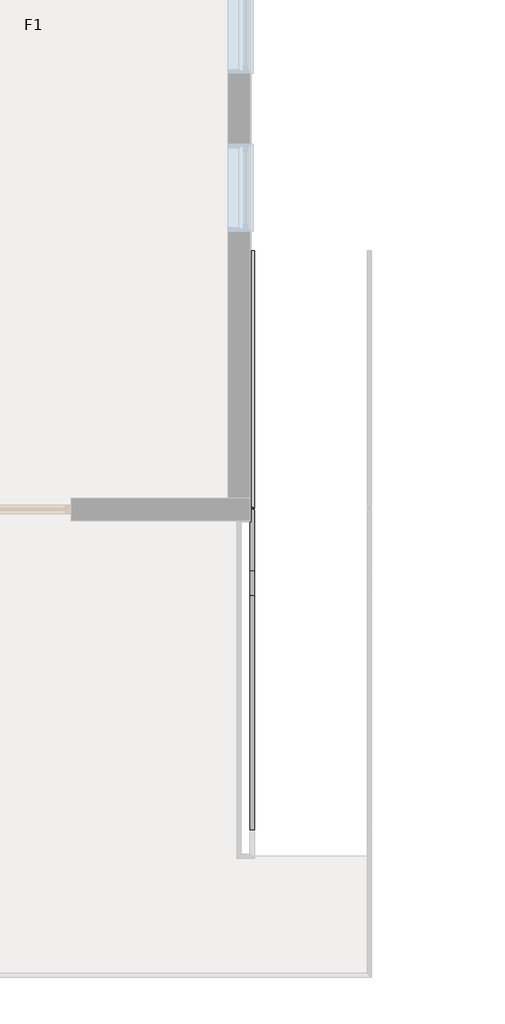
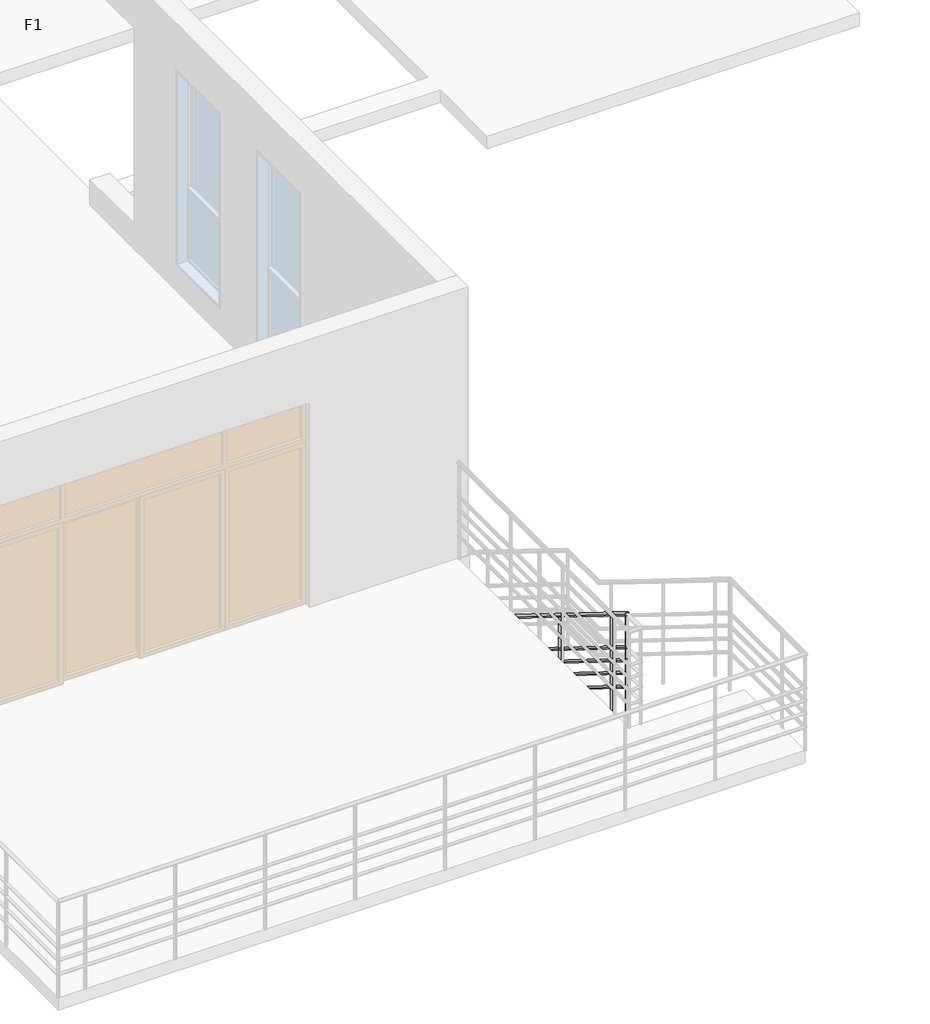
# One storey, part 3 of 4: 1 railing.
"""IFC4 building model written with IfcOpenShell, lengths in millimetres."""

from ifc_helpers import new_model, si_unit, frame, origin, place, context, project, spatial, circle_curve, ellipse_curve, element, save
from ifc_brep_helpers import plane_surface, cylinder_surface, advanced_brep

model = new_model("IFC4")

# Units and contexts
model_context = context("Model", 3, world=origin())
ifc_project = project(units=[si_unit("LENGTHUNIT", "METRE", prefix="MILLI")], contexts=[model_context])

# Site, building, storey
site = spatial("IfcSite", under=ifc_project)
building = spatial("IfcBuilding", under=site)
storey = spatial("IfcBuildingStorey", under=building, Name="F1", Elevation=0.0)

# Railing
placement = place(None, origin())
element("IfcRailing", 1, ObjectType="900mm 圆管", at=placement, inside=storey, context=model_context, shape_type="AdvancedBrep", body=[
    advanced_brep(
    [(-9845.9782681, -12891.0286905, -1999.8510653), (-9805.9782681, -12891.0286905, -1999.8510653), (-9845.9782681, -15416.7279836, -433.1578947), (-9805.9782681, -15416.7279836, -433.1578947)],
    [
        (0, 1, ellipse_curve(frame((-9825.9782681, -12891.0286905, -1999.8510653), z_axis=(0.0, 1.0, 0.0), x_axis=(0.0, 0.0, -1.0)), 23.5352758, 20.0)),
        (1, 0, ellipse_curve(frame((-9825.9782681, -12891.0286905, -1999.8510653), z_axis=(0.0, 1.0, 0.0), x_axis=(0.0, 0.0, -1.0)), 23.5352758, 20.0)),
        (2, 3, ellipse_curve(frame((-9825.9782681, -15416.7279836, -433.1578947), z_axis=(0.0, -0.9617141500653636, 0.27405454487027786), x_axis=(0.0, -0.27405454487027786, -0.9617141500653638)), 20.7962002, 20.0)),
        (3, 2, ellipse_curve(frame((-9825.9782681, -15416.7279836, -433.1578947), z_axis=(0.0, -0.9617141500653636, 0.27405454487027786), x_axis=(0.0, -0.27405454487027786, -0.9617141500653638)), 20.7962002, 20.0)),
        (0, 2),
        (3, 1),
    ],
    [
        plane_surface(frame((-9825.9782681, -12891.0286905, -1976.3157895), z_axis=(0.0, 1.0, 0.0), x_axis=(0.0, 0.0, -1.0))),
        plane_surface(frame((-9825.9782681, -15411.0286905, -413.1578947), z_axis=(0.0, -0.9617141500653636, 0.27405454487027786), x_axis=(1.0, 0.0, 0.0))),
        cylinder_surface(frame((-9825.9782681, -12901.5711758, -1993.3115537), z_axis=(0.0, 0.8497882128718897, -0.5271242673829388), x_axis=(1.0, 0.0, 0.0)), 20.0),
    ],
    [
        (0, [[1, 2]]),
        (1, [[3, 4]]),
        (2, [[-1, 5, -4, 6]]),
        (2, [[-2, -6, -3, -5]]),
    ],
),
    advanced_brep(
    [(-9845.9782681, -15436.7279836, -433.1578947), (-9805.9782681, -15436.7279836, -433.1578947), (-9845.9782681, -16036.7279836, -433.1578947), (-9805.9782681, -16036.7279836, -433.1578947), (-9845.9782681, -16281.5711758, -281.2814785), (-9805.9782681, -16281.5711758, -281.2814785), (-9845.9782681, -18571.0286905, 1138.8707392), (-9805.9782681, -18571.0286905, 1138.8707392)],
    [
        (0, 1, ellipse_curve(frame((-9825.9782681, -15436.7279836, -433.1578947), z_axis=(0.0, 0.9617141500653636, -0.27405454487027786), x_axis=(0.0, 0.27405454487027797, 0.9617141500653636)), 20.7962002, 20.0)),
        (1, 0, ellipse_curve(frame((-9825.9782681, -15436.7279836, -433.1578947), z_axis=(0.0, 0.9617141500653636, -0.27405454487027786), x_axis=(0.0, 0.27405454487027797, 0.9617141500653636)), 20.7962002, 20.0)),
        (0, 2),
        (2, 3, ellipse_curve(frame((-9825.9782681, -16036.7279836, -433.1578947), z_axis=(0.0, 0.9617141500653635, -0.27405454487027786), x_axis=(0.0, 0.27405454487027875, 0.9617141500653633)), 20.7962002, 20.0)),
        (3, 1),
        (3, 2, ellipse_curve(frame((-9825.9782681, -16036.7279836, -433.1578947), z_axis=(0.0, 0.9617141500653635, -0.27405454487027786), x_axis=(0.0, 0.27405454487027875, 0.9617141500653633)), 20.7962002, 20.0)),
        (2, 4),
        (4, 5, circle_curve(frame((-9825.9782681, -16281.5711758, -281.2814785), z_axis=(0.0, 0.8497882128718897, -0.5271242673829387), x_axis=(1.0, 0.0, 0.0)), 20.0)),
        (5, 3),
        (5, 4, circle_curve(frame((-9825.9782681, -16281.5711758, -281.2814785), z_axis=(0.0, 0.8497882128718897, -0.5271242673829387), x_axis=(1.0, 0.0, 0.0)), 20.0)),
        (6, 7, ellipse_curve(frame((-9825.9782681, -18571.0286905, 1138.8707392), z_axis=(0.0, -1.0, 0.0), x_axis=(0.0, 0.0, -1.0)), 23.5352758, 20.0)),
        (7, 6, ellipse_curve(frame((-9825.9782681, -18571.0286905, 1138.8707392), z_axis=(0.0, -1.0, 0.0), x_axis=(0.0, 0.0, -1.0)), 23.5352758, 20.0)),
        (4, 6),
        (7, 5),
    ],
    [
        plane_surface(frame((-9825.9782681, -15431.0286905, -413.1578947), z_axis=(0.0, 0.9617141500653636, -0.27405454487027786), x_axis=(1.0, 0.0, 0.0))),
        cylinder_surface(frame((-9825.9782681, -15431.0286905, -433.1578947), z_axis=(0.0, 1.0, 0.0), x_axis=(1.0, 0.0, 0.0)), 20.0),
        cylinder_surface(frame((-9825.9782681, -16041.5711758, -430.153659), z_axis=(0.0, 0.8497882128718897, -0.5271242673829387), x_axis=(1.0, 0.0, 0.0)), 20.0),
        plane_surface(frame((-9825.9782681, -18571.0286905, 1162.406015), z_axis=(0.0, -1.0, 0.0), x_axis=(0.0, 0.0, -1.0))),
        cylinder_surface(frame((-9825.9782681, -16281.5711758, -281.2814785), z_axis=(0.0, 0.8497882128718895, -0.5271242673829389), x_axis=(1.0, 0.0, 0.0)), 20.0),
    ],
    [
        (0, [[1, 2]]),
        (1, [[-1, 3, 4, 5]]),
        (1, [[-2, -5, 6, -3]]),
        (2, [[-4, 7, 8, 9]]),
        (2, [[-6, -9, 10, -7]]),
        (3, [[11, 12]]),
        (4, [[-8, 13, -12, 14]]),
        (4, [[-10, -14, -11, -13]]),
    ],
),
    advanced_brep(
    [(-9810.9782681, -12891.0286905, -2393.9672464), (-9840.9782681, -12891.0286905, -2393.9672464), (-9810.9782681, -15415.3031603, -828.1578947), (-9840.9782681, -15415.3031603, -828.1578947), (-9810.9782681, -15431.0286905, -828.1578947), (-9840.9782681, -15431.0286905, -828.1578947)],
    [
        (0, 1, ellipse_curve(frame((-9825.9782681, -12891.0286905, -2393.9672464), z_axis=(0.0, 1.0, 0.0), x_axis=(0.0, 0.0, -1.0)), 17.6514569, 15.0)),
        (1, 0, ellipse_curve(frame((-9825.9782681, -12891.0286905, -2393.9672464), z_axis=(0.0, 1.0, 0.0), x_axis=(0.0, 0.0, -1.0)), 17.6514569, 15.0)),
        (0, 2),
        (2, 3, ellipse_curve(frame((-9825.9782681, -15415.3031603, -828.1578947), z_axis=(0.0, 0.9617141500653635, -0.2740545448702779), x_axis=(0.0, -0.2740545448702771, -0.961714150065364)), 15.5971502, 15.0)),
        (3, 1),
        (3, 2, ellipse_curve(frame((-9825.9782681, -15415.3031603, -828.1578947), z_axis=(0.0, 0.9617141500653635, -0.2740545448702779), x_axis=(0.0, -0.2740545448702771, -0.961714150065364)), 15.5971502, 15.0)),
        (4, 5, circle_curve(frame((-9825.9782681, -15431.0286905, -828.1578947), z_axis=(0.0, -1.0, 0.0), x_axis=(-1.0, 0.0, 0.0)), 15.0)),
        (5, 4, circle_curve(frame((-9825.9782681, -15431.0286905, -828.1578947), z_axis=(0.0, -1.0, 0.0), x_axis=(-1.0, 0.0, 0.0)), 15.0)),
        (2, 4),
        (5, 3),
    ],
    [
        plane_surface(frame((-9825.9782681, -12891.0286905, -2376.3157895), z_axis=(0.0, 1.0, 0.0), x_axis=(0.0, 0.0, -1.0))),
        cylinder_surface(frame((-9825.9782681, -12898.9355545, -2389.0626127), z_axis=(0.0, 0.8497882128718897, -0.5271242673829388), x_axis=(-1.0, 0.0, 0.0)), 15.0),
        plane_surface(frame((-9825.9782681, -15431.0286905, -813.1578947), z_axis=(0.0, -1.0, 0.0), x_axis=(0.0, 0.0, -1.0))),
        cylinder_surface(frame((-9825.9782681, -15411.0286905, -828.1578947), z_axis=(0.0, 1.0, 0.0), x_axis=(-1.0, 0.0, 0.0)), 15.0),
    ],
    [
        (0, [[1, 2]]),
        (1, [[-1, 3, 4, 5]]),
        (1, [[-2, -5, 6, -3]]),
        (2, [[7, 8]]),
        (3, [[-4, 9, -8, 10]]),
        (3, [[-6, -10, -7, -9]]),
    ],
),
    advanced_brep(
    [(-9810.9782681, -15431.0286905, -828.1578947), (-9840.9782681, -15431.0286905, -828.1578947), (-9810.9782681, -16035.3031603, -828.1578947), (-9840.9782681, -16035.3031603, -828.1578947), (-9810.9782681, -16271.0286905, -681.9371712), (-9840.9782681, -16271.0286905, -681.9371712)],
    [
        (0, 1, circle_curve(frame((-9825.9782681, -15431.0286905, -828.1578947), z_axis=(0.0, 1.0, 0.0), x_axis=(-1.0, 0.0, 0.0)), 15.0)),
        (1, 0, circle_curve(frame((-9825.9782681, -15431.0286905, -828.1578947), z_axis=(0.0, 1.0, 0.0), x_axis=(-1.0, 0.0, 0.0)), 15.0)),
        (0, 2),
        (2, 3, ellipse_curve(frame((-9825.9782681, -16035.3031603, -828.1578947), z_axis=(0.0, 0.9617141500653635, -0.27405454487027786), x_axis=(0.0, 0.27405454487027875, 0.9617141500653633)), 15.5971502, 15.0)),
        (3, 1),
        (3, 2, ellipse_curve(frame((-9825.9782681, -16035.3031603, -828.1578947), z_axis=(0.0, 0.9617141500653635, -0.27405454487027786), x_axis=(0.0, 0.27405454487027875, 0.9617141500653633)), 15.5971502, 15.0)),
        (4, 5, ellipse_curve(frame((-9825.9782681, -16271.0286905, -681.9371712), z_axis=(0.0, -1.0, 0.0), x_axis=(0.0, 0.0, -1.0)), 17.6514569, 15.0)),
        (5, 4, ellipse_curve(frame((-9825.9782681, -16271.0286905, -681.9371712), z_axis=(0.0, -1.0, 0.0), x_axis=(0.0, 0.0, -1.0)), 17.6514569, 15.0)),
        (2, 4),
        (5, 3),
    ],
    [
        plane_surface(frame((-9825.9782681, -15431.0286905, -813.1578947), z_axis=(0.0, 1.0, 0.0), x_axis=(0.0, 0.0, -1.0))),
        cylinder_surface(frame((-9825.9782681, -15431.0286905, -828.1578947), z_axis=(0.0, 1.0, 0.0), x_axis=(-1.0, 0.0, 0.0)), 15.0),
        plane_surface(frame((-9825.9782681, -16271.0286905, -664.2857143), z_axis=(0.0, -1.0, 0.0), x_axis=(0.0, 0.0, -1.0))),
        cylinder_surface(frame((-9825.9782681, -16038.9355545, -825.9047179), z_axis=(0.0, 0.8497882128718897, -0.5271242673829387), x_axis=(-1.0, 0.0, 0.0)), 15.0),
    ],
    [
        (0, [[1, 2]]),
        (1, [[-1, 3, 4, 5]]),
        (1, [[-2, -5, 6, -3]]),
        (2, [[7, 8]]),
        (3, [[-4, 9, -8, 10]]),
        (3, [[-6, -10, -7, -9]]),
    ],
),
    advanced_brep(
    [(-9810.9782681, -16271.0286905, -681.9371712), (-9840.9782681, -16271.0286905, -681.9371712), (-9810.9782681, -18571.0286905, 744.7545582), (-9840.9782681, -18571.0286905, 744.7545582)],
    [
        (0, 1, ellipse_curve(frame((-9825.9782681, -16271.0286905, -681.9371712), z_axis=(0.0, 1.0, 0.0), x_axis=(0.0, 0.0, -1.0)), 17.6514569, 15.0)),
        (1, 0, ellipse_curve(frame((-9825.9782681, -16271.0286905, -681.9371712), z_axis=(0.0, 1.0, 0.0), x_axis=(0.0, 0.0, -1.0)), 17.6514569, 15.0)),
        (2, 3, ellipse_curve(frame((-9825.9782681, -18571.0286905, 744.7545582), z_axis=(0.0, -1.0, 0.0), x_axis=(0.0, 0.0, -1.0)), 17.6514569, 15.0)),
        (3, 2, ellipse_curve(frame((-9825.9782681, -18571.0286905, 744.7545582), z_axis=(0.0, -1.0, 0.0), x_axis=(0.0, 0.0, -1.0)), 17.6514569, 15.0)),
        (0, 2),
        (3, 1),
    ],
    [
        plane_surface(frame((-9825.9782681, -16271.0286905, -664.2857143), z_axis=(0.0, 1.0, 0.0), x_axis=(0.0, 0.0, -1.0))),
        plane_surface(frame((-9825.9782681, -18571.0286905, 762.406015), z_axis=(0.0, -1.0, 0.0), x_axis=(0.0, 0.0, -1.0))),
        cylinder_surface(frame((-9825.9782681, -16278.9355545, -677.0325375), z_axis=(0.0, 0.8497882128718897, -0.5271242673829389), x_axis=(-1.0, 0.0, 0.0)), 15.0),
    ],
    [
        (0, [[1, 2]]),
        (1, [[3, 4]]),
        (2, [[-1, 5, -4, 6]]),
        (2, [[-2, -6, -3, -5]]),
    ],
),
    advanced_brep(
    [(-9810.9782681, -12891.0286905, -2543.9672464), (-9840.9782681, -12891.0286905, -2543.9672464), (-9810.9782681, -15415.3031603, -978.1578947), (-9840.9782681, -15415.3031603, -978.1578947), (-9810.9782681, -15431.0286905, -978.1578947), (-9840.9782681, -15431.0286905, -978.1578947)],
    [
        (0, 1, ellipse_curve(frame((-9825.9782681, -12891.0286905, -2543.9672464), z_axis=(0.0, 1.0, 0.0), x_axis=(0.0, 0.0, -1.0)), 17.6514569, 15.0)),
        (1, 0, ellipse_curve(frame((-9825.9782681, -12891.0286905, -2543.9672464), z_axis=(0.0, 1.0, 0.0), x_axis=(0.0, 0.0, -1.0)), 17.6514569, 15.0)),
        (0, 2),
        (2, 3, ellipse_curve(frame((-9825.9782681, -15415.3031603, -978.1578947), z_axis=(0.0, 0.9617141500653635, -0.2740545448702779), x_axis=(0.0, -0.2740545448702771, -0.961714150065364)), 15.5971502, 15.0)),
        (3, 1),
        (3, 2, ellipse_curve(frame((-9825.9782681, -15415.3031603, -978.1578947), z_axis=(0.0, 0.9617141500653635, -0.2740545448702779), x_axis=(0.0, -0.2740545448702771, -0.961714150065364)), 15.5971502, 15.0)),
        (4, 5, circle_curve(frame((-9825.9782681, -15431.0286905, -978.1578947), z_axis=(0.0, -1.0, 0.0), x_axis=(-1.0, 0.0, 0.0)), 15.0)),
        (5, 4, circle_curve(frame((-9825.9782681, -15431.0286905, -978.1578947), z_axis=(0.0, -1.0, 0.0), x_axis=(-1.0, 0.0, 0.0)), 15.0)),
        (2, 4),
        (5, 3),
    ],
    [
        plane_surface(frame((-9825.9782681, -12891.0286905, -2526.3157895), z_axis=(0.0, 1.0, 0.0), x_axis=(0.0, 0.0, -1.0))),
        cylinder_surface(frame((-9825.9782681, -12898.9355545, -2539.0626127), z_axis=(0.0, 0.8497882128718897, -0.5271242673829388), x_axis=(-1.0, 0.0, 0.0)), 15.0),
        plane_surface(frame((-9825.9782681, -15431.0286905, -963.1578947), z_axis=(0.0, -1.0, 0.0), x_axis=(0.0, 0.0, -1.0))),
        cylinder_surface(frame((-9825.9782681, -15411.0286905, -978.1578947), z_axis=(0.0, 1.0, 0.0), x_axis=(-1.0, 0.0, 0.0)), 15.0),
    ],
    [
        (0, [[1, 2]]),
        (1, [[-1, 3, 4, 5]]),
        (1, [[-2, -5, 6, -3]]),
        (2, [[7, 8]]),
        (3, [[-4, 9, -8, 10]]),
        (3, [[-6, -10, -7, -9]]),
    ],
),
    advanced_brep(
    [(-9810.9782681, -15431.0286905, -978.1578947), (-9840.9782681, -15431.0286905, -978.1578947), (-9810.9782681, -16035.3031603, -978.1578947), (-9840.9782681, -16035.3031603, -978.1578947), (-9810.9782681, -16271.0286905, -831.9371712), (-9840.9782681, -16271.0286905, -831.9371712)],
    [
        (0, 1, circle_curve(frame((-9825.9782681, -15431.0286905, -978.1578947), z_axis=(0.0, 1.0, 0.0), x_axis=(-1.0, 0.0, 0.0)), 15.0)),
        (1, 0, circle_curve(frame((-9825.9782681, -15431.0286905, -978.1578947), z_axis=(0.0, 1.0, 0.0), x_axis=(-1.0, 0.0, 0.0)), 15.0)),
        (0, 2),
        (2, 3, ellipse_curve(frame((-9825.9782681, -16035.3031603, -978.1578947), z_axis=(0.0, 0.9617141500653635, -0.27405454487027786), x_axis=(0.0, 0.27405454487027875, 0.9617141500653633)), 15.5971502, 15.0)),
        (3, 1),
        (3, 2, ellipse_curve(frame((-9825.9782681, -16035.3031603, -978.1578947), z_axis=(0.0, 0.9617141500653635, -0.27405454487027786), x_axis=(0.0, 0.27405454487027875, 0.9617141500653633)), 15.5971502, 15.0)),
        (4, 5, ellipse_curve(frame((-9825.9782681, -16271.0286905, -831.9371712), z_axis=(0.0, -1.0, 0.0), x_axis=(0.0, 0.0, -1.0)), 17.6514569, 15.0)),
        (5, 4, ellipse_curve(frame((-9825.9782681, -16271.0286905, -831.9371712), z_axis=(0.0, -1.0, 0.0), x_axis=(0.0, 0.0, -1.0)), 17.6514569, 15.0)),
        (2, 4),
        (5, 3),
    ],
    [
        plane_surface(frame((-9825.9782681, -15431.0286905, -963.1578947), z_axis=(0.0, 1.0, 0.0), x_axis=(0.0, 0.0, -1.0))),
        cylinder_surface(frame((-9825.9782681, -15431.0286905, -978.1578947), z_axis=(0.0, 1.0, 0.0), x_axis=(-1.0, 0.0, 0.0)), 15.0),
        plane_surface(frame((-9825.9782681, -16271.0286905, -814.2857143), z_axis=(0.0, -1.0, 0.0), x_axis=(0.0, 0.0, -1.0))),
        cylinder_surface(frame((-9825.9782681, -16038.9355545, -975.9047179), z_axis=(0.0, 0.8497882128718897, -0.5271242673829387), x_axis=(-1.0, 0.0, 0.0)), 15.0),
    ],
    [
        (0, [[1, 2]]),
        (1, [[-1, 3, 4, 5]]),
        (1, [[-2, -5, 6, -3]]),
        (2, [[7, 8]]),
        (3, [[-4, 9, -8, 10]]),
        (3, [[-6, -10, -7, -9]]),
    ],
),
    advanced_brep(
    [(-9810.9782681, -16271.0286905, -831.9371712), (-9840.9782681, -16271.0286905, -831.9371712), (-9810.9782681, -18571.0286905, 594.7545582), (-9840.9782681, -18571.0286905, 594.7545582)],
    [
        (0, 1, ellipse_curve(frame((-9825.9782681, -16271.0286905, -831.9371712), z_axis=(0.0, 1.0, 0.0), x_axis=(0.0, 0.0, -1.0)), 17.6514569, 15.0)),
        (1, 0, ellipse_curve(frame((-9825.9782681, -16271.0286905, -831.9371712), z_axis=(0.0, 1.0, 0.0), x_axis=(0.0, 0.0, -1.0)), 17.6514569, 15.0)),
        (2, 3, ellipse_curve(frame((-9825.9782681, -18571.0286905, 594.7545582), z_axis=(0.0, -1.0, 0.0), x_axis=(0.0, 0.0, -1.0)), 17.6514569, 15.0)),
        (3, 2, ellipse_curve(frame((-9825.9782681, -18571.0286905, 594.7545582), z_axis=(0.0, -1.0, 0.0), x_axis=(0.0, 0.0, -1.0)), 17.6514569, 15.0)),
        (0, 2),
        (3, 1),
    ],
    [
        plane_surface(frame((-9825.9782681, -16271.0286905, -814.2857143), z_axis=(0.0, 1.0, 0.0), x_axis=(0.0, 0.0, -1.0))),
        plane_surface(frame((-9825.9782681, -18571.0286905, 612.406015), z_axis=(0.0, -1.0, 0.0), x_axis=(0.0, 0.0, -1.0))),
        cylinder_surface(frame((-9825.9782681, -16278.9355545, -827.0325375), z_axis=(0.0, 0.8497882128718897, -0.5271242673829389), x_axis=(-1.0, 0.0, 0.0)), 15.0),
    ],
    [
        (0, [[1, 2]]),
        (1, [[3, 4]]),
        (2, [[-1, 5, -4, 6]]),
        (2, [[-2, -6, -3, -5]]),
    ],
),
    advanced_brep(
    [(-9810.9782681, -12891.0286905, -2693.9672464), (-9840.9782681, -12891.0286905, -2693.9672464), (-9810.9782681, -15415.3031603, -1128.1578947), (-9840.9782681, -15415.3031603, -1128.1578947), (-9810.9782681, -15431.0286905, -1128.1578947), (-9840.9782681, -15431.0286905, -1128.1578947)],
    [
        (0, 1, ellipse_curve(frame((-9825.9782681, -12891.0286905, -2693.9672464), z_axis=(0.0, 1.0, 0.0), x_axis=(0.0, 0.0, -1.0)), 17.6514569, 15.0)),
        (1, 0, ellipse_curve(frame((-9825.9782681, -12891.0286905, -2693.9672464), z_axis=(0.0, 1.0, 0.0), x_axis=(0.0, 0.0, -1.0)), 17.6514569, 15.0)),
        (0, 2),
        (2, 3, ellipse_curve(frame((-9825.9782681, -15415.3031603, -1128.1578947), z_axis=(0.0, 0.9617141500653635, -0.2740545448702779), x_axis=(0.0, -0.2740545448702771, -0.961714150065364)), 15.5971502, 15.0)),
        (3, 1),
        (3, 2, ellipse_curve(frame((-9825.9782681, -15415.3031603, -1128.1578947), z_axis=(0.0, 0.9617141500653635, -0.2740545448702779), x_axis=(0.0, -0.2740545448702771, -0.961714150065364)), 15.5971502, 15.0)),
        (4, 5, circle_curve(frame((-9825.9782681, -15431.0286905, -1128.1578947), z_axis=(0.0, -1.0, 0.0), x_axis=(-1.0, 0.0, 0.0)), 15.0)),
        (5, 4, circle_curve(frame((-9825.9782681, -15431.0286905, -1128.1578947), z_axis=(0.0, -1.0, 0.0), x_axis=(-1.0, 0.0, 0.0)), 15.0)),
        (2, 4),
        (5, 3),
    ],
    [
        plane_surface(frame((-9825.9782681, -12891.0286905, -2676.3157895), z_axis=(0.0, 1.0, 0.0), x_axis=(0.0, 0.0, -1.0))),
        cylinder_surface(frame((-9825.9782681, -12898.9355545, -2689.0626127), z_axis=(0.0, 0.8497882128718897, -0.5271242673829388), x_axis=(-1.0, 0.0, 0.0)), 15.0),
        plane_surface(frame((-9825.9782681, -15431.0286905, -1113.1578947), z_axis=(0.0, -1.0, 0.0), x_axis=(0.0, 0.0, -1.0))),
        cylinder_surface(frame((-9825.9782681, -15411.0286905, -1128.1578947), z_axis=(0.0, 1.0, 0.0), x_axis=(-1.0, 0.0, 0.0)), 15.0),
    ],
    [
        (0, [[1, 2]]),
        (1, [[-1, 3, 4, 5]]),
        (1, [[-2, -5, 6, -3]]),
        (2, [[7, 8]]),
        (3, [[-4, 9, -8, 10]]),
        (3, [[-6, -10, -7, -9]]),
    ],
),
    advanced_brep(
    [(-9810.9782681, -15431.0286905, -1128.1578947), (-9840.9782681, -15431.0286905, -1128.1578947), (-9810.9782681, -16035.3031603, -1128.1578947), (-9840.9782681, -16035.3031603, -1128.1578947), (-9810.9782681, -16271.0286905, -981.9371712), (-9840.9782681, -16271.0286905, -981.9371712)],
    [
        (0, 1, circle_curve(frame((-9825.9782681, -15431.0286905, -1128.1578947), z_axis=(0.0, 1.0, 0.0), x_axis=(-1.0, 0.0, 0.0)), 15.0)),
        (1, 0, circle_curve(frame((-9825.9782681, -15431.0286905, -1128.1578947), z_axis=(0.0, 1.0, 0.0), x_axis=(-1.0, 0.0, 0.0)), 15.0)),
        (0, 2),
        (2, 3, ellipse_curve(frame((-9825.9782681, -16035.3031603, -1128.1578947), z_axis=(0.0, 0.9617141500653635, -0.27405454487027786), x_axis=(0.0, 0.27405454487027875, 0.9617141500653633)), 15.5971502, 15.0)),
        (3, 1),
        (3, 2, ellipse_curve(frame((-9825.9782681, -16035.3031603, -1128.1578947), z_axis=(0.0, 0.9617141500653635, -0.27405454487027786), x_axis=(0.0, 0.27405454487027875, 0.9617141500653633)), 15.5971502, 15.0)),
        (4, 5, ellipse_curve(frame((-9825.9782681, -16271.0286905, -981.9371712), z_axis=(0.0, -1.0, 0.0), x_axis=(0.0, 0.0, -1.0)), 17.6514569, 15.0)),
        (5, 4, ellipse_curve(frame((-9825.9782681, -16271.0286905, -981.9371712), z_axis=(0.0, -1.0, 0.0), x_axis=(0.0, 0.0, -1.0)), 17.6514569, 15.0)),
        (2, 4),
        (5, 3),
    ],
    [
        plane_surface(frame((-9825.9782681, -15431.0286905, -1113.1578947), z_axis=(0.0, 1.0, 0.0), x_axis=(0.0, 0.0, -1.0))),
        cylinder_surface(frame((-9825.9782681, -15431.0286905, -1128.1578947), z_axis=(0.0, 1.0, 0.0), x_axis=(-1.0, 0.0, 0.0)), 15.0),
        plane_surface(frame((-9825.9782681, -16271.0286905, -964.2857143), z_axis=(0.0, -1.0, 0.0), x_axis=(0.0, 0.0, -1.0))),
        cylinder_surface(frame((-9825.9782681, -16038.9355545, -1125.9047179), z_axis=(0.0, 0.8497882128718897, -0.5271242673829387), x_axis=(-1.0, 0.0, 0.0)), 15.0),
    ],
    [
        (0, [[1, 2]]),
        (1, [[-1, 3, 4, 5]]),
        (1, [[-2, -5, 6, -3]]),
        (2, [[7, 8]]),
        (3, [[-4, 9, -8, 10]]),
        (3, [[-6, -10, -7, -9]]),
    ],
),
    advanced_brep(
    [(-9810.9782681, -16271.0286905, -981.9371712), (-9840.9782681, -16271.0286905, -981.9371712), (-9810.9782681, -18571.0286905, 444.7545582), (-9840.9782681, -18571.0286905, 444.7545582)],
    [
        (0, 1, ellipse_curve(frame((-9825.9782681, -16271.0286905, -981.9371712), z_axis=(0.0, 1.0, 0.0), x_axis=(0.0, 0.0, -1.0)), 17.6514569, 15.0)),
        (1, 0, ellipse_curve(frame((-9825.9782681, -16271.0286905, -981.9371712), z_axis=(0.0, 1.0, 0.0), x_axis=(0.0, 0.0, -1.0)), 17.6514569, 15.0)),
        (2, 3, ellipse_curve(frame((-9825.9782681, -18571.0286905, 444.7545582), z_axis=(0.0, -1.0, 0.0), x_axis=(0.0, 0.0, -1.0)), 17.6514569, 15.0)),
        (3, 2, ellipse_curve(frame((-9825.9782681, -18571.0286905, 444.7545582), z_axis=(0.0, -1.0, 0.0), x_axis=(0.0, 0.0, -1.0)), 17.6514569, 15.0)),
        (0, 2),
        (3, 1),
    ],
    [
        plane_surface(frame((-9825.9782681, -16271.0286905, -964.2857143), z_axis=(0.0, 1.0, 0.0), x_axis=(0.0, 0.0, -1.0))),
        plane_surface(frame((-9825.9782681, -18571.0286905, 462.406015), z_axis=(0.0, -1.0, 0.0), x_axis=(0.0, 0.0, -1.0))),
        cylinder_surface(frame((-9825.9782681, -16278.9355545, -977.0325375), z_axis=(0.0, 0.8497882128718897, -0.5271242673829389), x_axis=(-1.0, 0.0, 0.0)), 15.0),
    ],
    [
        (0, [[1, 2]]),
        (1, [[3, 4]]),
        (2, [[-1, 5, -4, 6]]),
        (2, [[-2, -6, -3, -5]]),
    ],
),
    advanced_brep(
    [(-9810.9782681, -12891.0286905, -2855.9672464), (-9840.9782681, -12891.0286905, -2855.9672464), (-9810.9782681, -15415.3031603, -1290.1578947), (-9840.9782681, -15415.3031603, -1290.1578947), (-9810.9782681, -15431.0286905, -1290.1578947), (-9840.9782681, -15431.0286905, -1290.1578947)],
    [
        (0, 1, ellipse_curve(frame((-9825.9782681, -12891.0286905, -2855.9672464), z_axis=(0.0, 1.0, 0.0), x_axis=(0.0, 0.0, -1.0)), 17.6514569, 15.0)),
        (1, 0, ellipse_curve(frame((-9825.9782681, -12891.0286905, -2855.9672464), z_axis=(0.0, 1.0, 0.0), x_axis=(0.0, 0.0, -1.0)), 17.6514569, 15.0)),
        (0, 2),
        (2, 3, ellipse_curve(frame((-9825.9782681, -15415.3031603, -1290.1578947), z_axis=(0.0, 0.9617141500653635, -0.2740545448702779), x_axis=(0.0, -0.2740545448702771, -0.961714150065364)), 15.5971502, 15.0)),
        (3, 1),
        (3, 2, ellipse_curve(frame((-9825.9782681, -15415.3031603, -1290.1578947), z_axis=(0.0, 0.9617141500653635, -0.2740545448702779), x_axis=(0.0, -0.2740545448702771, -0.961714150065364)), 15.5971502, 15.0)),
        (4, 5, circle_curve(frame((-9825.9782681, -15431.0286905, -1290.1578947), z_axis=(0.0, -1.0, 0.0), x_axis=(-1.0, 0.0, 0.0)), 15.0)),
        (5, 4, circle_curve(frame((-9825.9782681, -15431.0286905, -1290.1578947), z_axis=(0.0, -1.0, 0.0), x_axis=(-1.0, 0.0, 0.0)), 15.0)),
        (2, 4),
        (5, 3),
    ],
    [
        plane_surface(frame((-9825.9782681, -12891.0286905, -2838.3157895), z_axis=(0.0, 1.0, 0.0), x_axis=(0.0, 0.0, -1.0))),
        cylinder_surface(frame((-9825.9782681, -12898.9355545, -2851.0626127), z_axis=(0.0, 0.8497882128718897, -0.5271242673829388), x_axis=(-1.0, 0.0, 0.0)), 15.0),
        plane_surface(frame((-9825.9782681, -15431.0286905, -1275.1578947), z_axis=(0.0, -1.0, 0.0), x_axis=(0.0, 0.0, -1.0))),
        cylinder_surface(frame((-9825.9782681, -15411.0286905, -1290.1578947), z_axis=(0.0, 1.0, 0.0), x_axis=(-1.0, 0.0, 0.0)), 15.0),
    ],
    [
        (0, [[1, 2]]),
        (1, [[-1, 3, 4, 5]]),
        (1, [[-2, -5, 6, -3]]),
        (2, [[7, 8]]),
        (3, [[-4, 9, -8, 10]]),
        (3, [[-6, -10, -7, -9]]),
    ],
),
    advanced_brep(
    [(-9810.9782681, -15431.0286905, -1290.1578947), (-9840.9782681, -15431.0286905, -1290.1578947), (-9810.9782681, -16035.3031603, -1290.1578947), (-9840.9782681, -16035.3031603, -1290.1578947), (-9810.9782681, -16271.0286905, -1143.9371712), (-9840.9782681, -16271.0286905, -1143.9371712)],
    [
        (0, 1, circle_curve(frame((-9825.9782681, -15431.0286905, -1290.1578947), z_axis=(0.0, 1.0, 0.0), x_axis=(-1.0, 0.0, 0.0)), 15.0)),
        (1, 0, circle_curve(frame((-9825.9782681, -15431.0286905, -1290.1578947), z_axis=(0.0, 1.0, 0.0), x_axis=(-1.0, 0.0, 0.0)), 15.0)),
        (0, 2),
        (2, 3, ellipse_curve(frame((-9825.9782681, -16035.3031603, -1290.1578947), z_axis=(0.0, 0.9617141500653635, -0.27405454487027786), x_axis=(0.0, 0.27405454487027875, 0.9617141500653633)), 15.5971502, 15.0)),
        (3, 1),
        (3, 2, ellipse_curve(frame((-9825.9782681, -16035.3031603, -1290.1578947), z_axis=(0.0, 0.9617141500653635, -0.27405454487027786), x_axis=(0.0, 0.27405454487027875, 0.9617141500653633)), 15.5971502, 15.0)),
        (4, 5, ellipse_curve(frame((-9825.9782681, -16271.0286905, -1143.9371712), z_axis=(0.0, -1.0, 0.0), x_axis=(0.0, 0.0, -1.0)), 17.6514569, 15.0)),
        (5, 4, ellipse_curve(frame((-9825.9782681, -16271.0286905, -1143.9371712), z_axis=(0.0, -1.0, 0.0), x_axis=(0.0, 0.0, -1.0)), 17.6514569, 15.0)),
        (2, 4),
        (5, 3),
    ],
    [
        plane_surface(frame((-9825.9782681, -15431.0286905, -1275.1578947), z_axis=(0.0, 1.0, 0.0), x_axis=(0.0, 0.0, -1.0))),
        cylinder_surface(frame((-9825.9782681, -15431.0286905, -1290.1578947), z_axis=(0.0, 1.0, 0.0), x_axis=(-1.0, 0.0, 0.0)), 15.0),
        plane_surface(frame((-9825.9782681, -16271.0286905, -1126.2857143), z_axis=(0.0, -1.0, 0.0), x_axis=(0.0, 0.0, -1.0))),
        cylinder_surface(frame((-9825.9782681, -16038.9355545, -1287.9047179), z_axis=(0.0, 0.8497882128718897, -0.5271242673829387), x_axis=(-1.0, 0.0, 0.0)), 15.0),
    ],
    [
        (0, [[1, 2]]),
        (1, [[-1, 3, 4, 5]]),
        (1, [[-2, -5, 6, -3]]),
        (2, [[7, 8]]),
        (3, [[-4, 9, -8, 10]]),
        (3, [[-6, -10, -7, -9]]),
    ],
),
    advanced_brep(
    [(-9810.9782681, -16271.0286905, -1143.9371712), (-9840.9782681, -16271.0286905, -1143.9371712), (-9810.9782681, -18571.0286905, 282.7545582), (-9840.9782681, -18571.0286905, 282.7545582)],
    [
        (0, 1, ellipse_curve(frame((-9825.9782681, -16271.0286905, -1143.9371712), z_axis=(0.0, 1.0, 0.0), x_axis=(0.0, 0.0, -1.0)), 17.6514569, 15.0)),
        (1, 0, ellipse_curve(frame((-9825.9782681, -16271.0286905, -1143.9371712), z_axis=(0.0, 1.0, 0.0), x_axis=(0.0, 0.0, -1.0)), 17.6514569, 15.0)),
        (2, 3, ellipse_curve(frame((-9825.9782681, -18571.0286905, 282.7545582), z_axis=(0.0, -1.0, 0.0), x_axis=(0.0, 0.0, -1.0)), 17.6514569, 15.0)),
        (3, 2, ellipse_curve(frame((-9825.9782681, -18571.0286905, 282.7545582), z_axis=(0.0, -1.0, 0.0), x_axis=(0.0, 0.0, -1.0)), 17.6514569, 15.0)),
        (0, 2),
        (3, 1),
    ],
    [
        plane_surface(frame((-9825.9782681, -16271.0286905, -1126.2857143), z_axis=(0.0, 1.0, 0.0), x_axis=(0.0, 0.0, -1.0))),
        plane_surface(frame((-9825.9782681, -18571.0286905, 300.406015), z_axis=(0.0, -1.0, 0.0), x_axis=(0.0, 0.0, -1.0))),
        cylinder_surface(frame((-9825.9782681, -16278.9355545, -1139.0325375), z_axis=(0.0, 0.8497882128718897, -0.5271242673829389), x_axis=(-1.0, 0.0, 0.0)), 15.0),
    ],
    [
        (0, [[1, 2]]),
        (1, [[3, 4]]),
        (2, [[-1, 5, -4, 6]]),
        (2, [[-2, -6, -3, -5]]),
    ],
),
    advanced_brep(
    [(-9838.4782681, -18271.0286905, 929.2452378), (-9838.4782681, -18271.0286905, -173.6842105), (-9813.4782681, -18271.0286905, -173.6842105), (-9813.4782681, -18271.0286905, 929.2452378)],
    [
        (0, 1),
        (1, 2, circle_curve(frame((-9825.9782681, -18271.0286905, -173.6842105), z_axis=(0.0, 0.0, 1.0), x_axis=(1.0, 0.0, 0.0)), 12.5)),
        (2, 3),
        (3, 0, ellipse_curve(frame((-9825.9782681, -18271.0286905, 929.2452378), z_axis=(0.0, -0.5271242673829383, -0.84978821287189), x_axis=(0.0, -0.84978821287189, 0.5271242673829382)), 14.7095474, 12.5)),
        (0, 3, ellipse_curve(frame((-9825.9782681, -18271.0286905, 929.2452378), z_axis=(0.0, -0.5271242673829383, -0.84978821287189), x_axis=(0.0, -0.84978821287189, 0.5271242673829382)), 14.7095474, 12.5)),
        (2, 1, circle_curve(frame((-9825.9782681, -18271.0286905, -173.6842105), z_axis=(0.0, 0.0, 1.0), x_axis=(1.0, 0.0, 0.0)), 12.5)),
    ],
    [
        cylinder_surface(frame((-9825.9782681, -18271.0286905, -273.6842105), z_axis=(0.0, 0.0, 1.0), x_axis=(1.0, 0.0, 0.0)), 12.5),
        plane_surface(frame((-9800.9782681, -18296.0286905, 944.7527566), z_axis=(0.0, 0.5271242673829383, 0.84978821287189), x_axis=(-1.0, 0.0, 0.0))),
        plane_surface(frame((-9800.9782681, -18246.0286905, -173.6842105), z_axis=(0.0, 0.0, -1.0), x_axis=(-1.0, 0.0, 0.0))),
    ],
    [
        (0, [[1, 2, 3, 4]]),
        (0, [[-1, 5, -3, 6]]),
        (1, [[-4, -5]]),
        (2, [[-2, -6]]),
    ],
),
    advanced_brep(
    [(-9838.4782681, -17271.0286905, 308.9444859), (-9838.4782681, -17271.0286905, -868.4210526), (-9813.4782681, -17271.0286905, -868.4210526), (-9813.4782681, -17271.0286905, 308.9444859)],
    [
        (0, 1),
        (1, 2, circle_curve(frame((-9825.9782681, -17271.0286905, -868.4210526), z_axis=(0.0, 0.0, 1.0), x_axis=(1.0, 0.0, 0.0)), 12.5)),
        (2, 3),
        (3, 0, ellipse_curve(frame((-9825.9782681, -17271.0286905, 308.9444859), z_axis=(0.0, -0.5271242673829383, -0.84978821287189), x_axis=(0.0, -0.84978821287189, 0.5271242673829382)), 14.7095474, 12.5)),
        (0, 3, ellipse_curve(frame((-9825.9782681, -17271.0286905, 308.9444859), z_axis=(0.0, -0.5271242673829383, -0.84978821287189), x_axis=(0.0, -0.84978821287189, 0.5271242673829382)), 14.7095474, 12.5)),
        (2, 1, circle_curve(frame((-9825.9782681, -17271.0286905, -868.4210526), z_axis=(0.0, 0.0, 1.0), x_axis=(1.0, 0.0, 0.0)), 12.5)),
    ],
    [
        cylinder_surface(frame((-9825.9782681, -17271.0286905, -968.4210526), z_axis=(0.0, 0.0, 1.0), x_axis=(1.0, 0.0, 0.0)), 12.5),
        plane_surface(frame((-9800.9782681, -17296.0286905, 324.4520047), z_axis=(0.0, 0.5271242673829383, 0.84978821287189), x_axis=(-1.0, 0.0, 0.0))),
        plane_surface(frame((-9800.9782681, -17246.0286905, -868.4210526), z_axis=(0.0, 0.0, -1.0), x_axis=(-1.0, 0.0, 0.0))),
    ],
    [
        (0, [[1, 2, 3, 4]]),
        (0, [[-1, 5, -3, 6]]),
        (1, [[-4, -5]]),
        (2, [[-2, -6]]),
    ],
),
    advanced_brep(
    [(-9838.4782681, -14891.0286905, -782.7848374), (-9838.4782681, -14891.0286905, -1910.5263158), (-9813.4782681, -14891.0286905, -1910.5263158), (-9813.4782681, -14891.0286905, -782.7848374)],
    [
        (0, 1),
        (1, 2, circle_curve(frame((-9825.9782681, -14891.0286905, -1910.5263158), z_axis=(0.0, 0.0, 1.0), x_axis=(1.0, 0.0, 0.0)), 12.5)),
        (2, 3),
        (3, 0, ellipse_curve(frame((-9825.9782681, -14891.0286905, -782.7848374), z_axis=(0.0, -0.5271242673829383, -0.84978821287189), x_axis=(0.0, -0.84978821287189, 0.5271242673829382)), 14.7095474, 12.5)),
        (0, 3, ellipse_curve(frame((-9825.9782681, -14891.0286905, -782.7848374), z_axis=(0.0, -0.5271242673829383, -0.84978821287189), x_axis=(0.0, -0.84978821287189, 0.5271242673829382)), 14.7095474, 12.5)),
        (2, 1, circle_curve(frame((-9825.9782681, -14891.0286905, -1910.5263158), z_axis=(0.0, 0.0, 1.0), x_axis=(1.0, 0.0, 0.0)), 12.5)),
    ],
    [
        cylinder_surface(frame((-9825.9782681, -14891.0286905, -2010.5263158), z_axis=(0.0, 0.0, 1.0), x_axis=(1.0, 0.0, 0.0)), 12.5),
        plane_surface(frame((-9800.9782681, -14916.0286905, -767.2773186), z_axis=(0.0, 0.5271242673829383, 0.84978821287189), x_axis=(-1.0, 0.0, 0.0))),
        plane_surface(frame((-9800.9782681, -14866.0286905, -1910.5263158), z_axis=(0.0, 0.0, -1.0), x_axis=(-1.0, 0.0, 0.0))),
    ],
    [
        (0, [[1, 2, 3, 4]]),
        (0, [[-1, 5, -3, 6]]),
        (1, [[-4, -5]]),
        (2, [[-2, -6]]),
    ],
),
    advanced_brep(
    [(-9838.4782681, -13891.0286905, -1403.0855893), (-9838.4782681, -13891.0286905, -2605.2631579), (-9813.4782681, -13891.0286905, -2605.2631579), (-9813.4782681, -13891.0286905, -1403.0855893)],
    [
        (0, 1),
        (1, 2, circle_curve(frame((-9825.9782681, -13891.0286905, -2605.2631579), z_axis=(0.0, 0.0, 1.0), x_axis=(1.0, 0.0, 0.0)), 12.5)),
        (2, 3),
        (3, 0, ellipse_curve(frame((-9825.9782681, -13891.0286905, -1403.0855893), z_axis=(0.0, -0.52712426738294, -0.849788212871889), x_axis=(0.0, -0.849788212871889, 0.5271242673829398)), 14.7095474, 12.5)),
        (0, 3, ellipse_curve(frame((-9825.9782681, -13891.0286905, -1403.0855893), z_axis=(0.0, -0.52712426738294, -0.849788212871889), x_axis=(0.0, -0.849788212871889, 0.5271242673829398)), 14.7095474, 12.5)),
        (2, 1, circle_curve(frame((-9825.9782681, -13891.0286905, -2605.2631579), z_axis=(0.0, 0.0, 1.0), x_axis=(1.0, 0.0, 0.0)), 12.5)),
    ],
    [
        cylinder_surface(frame((-9825.9782681, -13891.0286905, -2705.2631579), z_axis=(0.0, 0.0, 1.0), x_axis=(1.0, 0.0, 0.0)), 12.5),
        plane_surface(frame((-9800.9782681, -13916.0286905, -1387.5780705), z_axis=(0.0, 0.52712426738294, 0.849788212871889), x_axis=(-1.0, 0.0, 0.0))),
        plane_surface(frame((-9800.9782681, -13866.0286905, -2605.2631579), z_axis=(0.0, 0.0, -1.0), x_axis=(-1.0, 0.0, 0.0))),
    ],
    [
        (0, [[1, 2, 3, 4]]),
        (0, [[-1, 5, -3, 6]]),
        (1, [[-4, -5]]),
        (2, [[-2, -6]]),
    ],
),
    advanced_brep(
    [(-9838.4782681, -16271.0286905, -311.356266), (-9838.4782681, -16271.0286905, -1563.1578947), (-9813.4782681, -16271.0286905, -1563.1578947), (-9813.4782681, -16271.0286905, -311.356266)],
    [
        (0, 1),
        (1, 2, circle_curve(frame((-9825.9782681, -16271.0286905, -1563.1578947), z_axis=(0.0, 0.0, 1.0), x_axis=(1.0, 0.0, 0.0)), 12.5)),
        (2, 3),
        (3, 0, ellipse_curve(frame((-9825.9782681, -16271.0286905, -311.356266), z_axis=(0.0, -0.5271242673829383, -0.84978821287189), x_axis=(0.0, -0.84978821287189, 0.5271242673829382)), 14.7095474, 12.5)),
        (0, 3, ellipse_curve(frame((-9825.9782681, -16271.0286905, -311.356266), z_axis=(0.0, -0.5271242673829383, -0.84978821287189), x_axis=(0.0, -0.84978821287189, 0.5271242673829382)), 14.7095474, 12.5)),
        (2, 1, circle_curve(frame((-9825.9782681, -16271.0286905, -1563.1578947), z_axis=(0.0, 0.0, 1.0), x_axis=(1.0, 0.0, 0.0)), 12.5)),
    ],
    [
        cylinder_surface(frame((-9825.9782681, -16271.0286905, -1663.1578947), z_axis=(0.0, 0.0, 1.0), x_axis=(1.0, 0.0, 0.0)), 12.5),
        plane_surface(frame((-9800.9782681, -16296.0286905, -295.8487472), z_axis=(0.0, 0.5271242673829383, 0.84978821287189), x_axis=(-1.0, 0.0, 0.0))),
        plane_surface(frame((-9800.9782681, -16246.0286905, -1563.1578947), z_axis=(0.0, 0.0, -1.0), x_axis=(-1.0, 0.0, 0.0))),
    ],
    [
        (0, [[1, 2, 3, 4]]),
        (0, [[-1, 5, -3, 6]]),
        (1, [[-4, -5]]),
        (2, [[-2, -6]]),
    ],
),
    advanced_brep(
    [(-9838.4782681, -15431.0286905, -447.8224314), (-9838.4782681, -15431.0286905, -1563.1578947), (-9813.4782681, -15431.0286905, -1563.1578947), (-9813.4782681, -15431.0286905, -447.8224314)],
    [
        (0, 1),
        (1, 2, circle_curve(frame((-9825.9782681, -15431.0286905, -1563.1578947), z_axis=(0.0, 0.0, 1.0), x_axis=(1.0, 0.0, 0.0)), 12.5)),
        (2, 3),
        (3, 0, ellipse_curve(frame((-9825.9782681, -15431.0286905, -447.8224314), z_axis=(0.0, -0.5271242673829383, -0.84978821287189), x_axis=(0.0, -0.84978821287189, 0.5271242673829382)), 14.7095474, 12.5)),
        (0, 3, ellipse_curve(frame((-9825.9782681, -15431.0286905, -447.8224314), z_axis=(0.0, -0.5271242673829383, -0.84978821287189), x_axis=(0.0, -0.84978821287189, 0.5271242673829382)), 14.7095474, 12.5)),
        (2, 1, circle_curve(frame((-9825.9782681, -15431.0286905, -1563.1578947), z_axis=(0.0, 0.0, 1.0), x_axis=(1.0, 0.0, 0.0)), 12.5)),
    ],
    [
        cylinder_surface(frame((-9825.9782681, -15431.0286905, -1663.1578947), z_axis=(0.0, 0.0, 1.0), x_axis=(1.0, 0.0, 0.0)), 12.5),
        plane_surface(frame((-9800.9782681, -15456.0286905, -432.3149126), z_axis=(0.0, 0.5271242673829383, 0.84978821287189), x_axis=(-1.0, 0.0, 0.0))),
        plane_surface(frame((-9800.9782681, -15406.0286905, -1563.1578947), z_axis=(0.0, 0.0, -1.0), x_axis=(-1.0, 0.0, 0.0))),
    ],
    [
        (0, [[1, 2, 3, 4]]),
        (0, [[-1, 5, -3, 6]]),
        (1, [[-4, -5]]),
        (2, [[-2, -6]]),
    ],
),
    advanced_brep(
    [(-9838.4782681, -18558.5286905, 1107.5817039), (-9838.4782681, -18558.5286905, 0.0), (-9813.4782681, -18558.5286905, 0.0), (-9813.4782681, -18558.5286905, 1107.5817039)],
    [
        (0, 1),
        (1, 2, circle_curve(frame((-9825.9782681, -18558.5286905, 0.0), z_axis=(0.0, 0.0, 1.0), x_axis=(1.0, 0.0, 0.0)), 12.5)),
        (2, 3),
        (3, 0, ellipse_curve(frame((-9825.9782681, -18558.5286905, 1107.5817039), z_axis=(0.0, -0.5271242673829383, -0.84978821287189), x_axis=(0.0, -0.84978821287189, 0.5271242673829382)), 14.7095474, 12.5)),
        (0, 3, ellipse_curve(frame((-9825.9782681, -18558.5286905, 1107.5817039), z_axis=(0.0, -0.5271242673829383, -0.84978821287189), x_axis=(0.0, -0.84978821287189, 0.5271242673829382)), 14.7095474, 12.5)),
        (2, 1, circle_curve(frame((-9825.9782681, -18558.5286905, 0.0), z_axis=(0.0, 0.0, 1.0), x_axis=(1.0, 0.0, 0.0)), 12.5)),
    ],
    [
        cylinder_surface(frame((-9825.9782681, -18558.5286905, -100.0), z_axis=(0.0, 0.0, 1.0), x_axis=(1.0, 0.0, 0.0)), 12.5),
        plane_surface(frame((-9800.9782681, -18583.5286905, 1123.0892227), z_axis=(0.0, 0.5271242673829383, 0.84978821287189), x_axis=(-1.0, 0.0, 0.0))),
        plane_surface(frame((-9800.9782681, -18533.5286905, 0.0), z_axis=(0.0, 0.0, -1.0), x_axis=(-1.0, 0.0, 0.0))),
    ],
    [
        (0, [[1, 2, 3, 4]]),
        (0, [[-1, 5, -3, 6]]),
        (1, [[-4, -5]]),
        (2, [[-2, -6]]),
    ],
),
    advanced_brep(
    [(-9838.4782681, -12903.5286905, -2015.6325818), (-9838.4782681, -12903.5286905, -3126.3157895), (-9813.4782681, -12903.5286905, -3126.3157895), (-9813.4782681, -12903.5286905, -2015.6325818)],
    [
        (0, 1),
        (1, 2, circle_curve(frame((-9825.9782681, -12903.5286905, -3126.3157895), z_axis=(0.0, 0.0, 1.0), x_axis=(1.0, 0.0, 0.0)), 12.5)),
        (2, 3),
        (3, 0, ellipse_curve(frame((-9825.9782681, -12903.5286905, -2015.6325818), z_axis=(0.0, -0.5271242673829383, -0.84978821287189), x_axis=(0.0, -0.84978821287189, 0.5271242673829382)), 14.7095474, 12.5)),
        (0, 3, ellipse_curve(frame((-9825.9782681, -12903.5286905, -2015.6325818), z_axis=(0.0, -0.5271242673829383, -0.84978821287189), x_axis=(0.0, -0.84978821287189, 0.5271242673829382)), 14.7095474, 12.5)),
        (2, 1, circle_curve(frame((-9825.9782681, -12903.5286905, -3126.3157895), z_axis=(0.0, 0.0, 1.0), x_axis=(1.0, 0.0, 0.0)), 12.5)),
    ],
    [
        cylinder_surface(frame((-9825.9782681, -12903.5286905, -3226.3157895), z_axis=(0.0, 0.0, 1.0), x_axis=(1.0, 0.0, 0.0)), 12.5),
        plane_surface(frame((-9800.9782681, -12928.5286905, -2000.125063), z_axis=(0.0, 0.5271242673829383, 0.84978821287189), x_axis=(-1.0, 0.0, 0.0))),
        plane_surface(frame((-9800.9782681, -12878.5286905, -3126.3157895), z_axis=(0.0, 0.0, -1.0), x_axis=(-1.0, 0.0, 0.0))),
    ],
    [
        (0, [[1, 2, 3, 4]]),
        (0, [[-1, 5, -3, 6]]),
        (1, [[-4, -5]]),
        (2, [[-2, -6]]),
    ],
),
])

save(model, "model.ifc")
